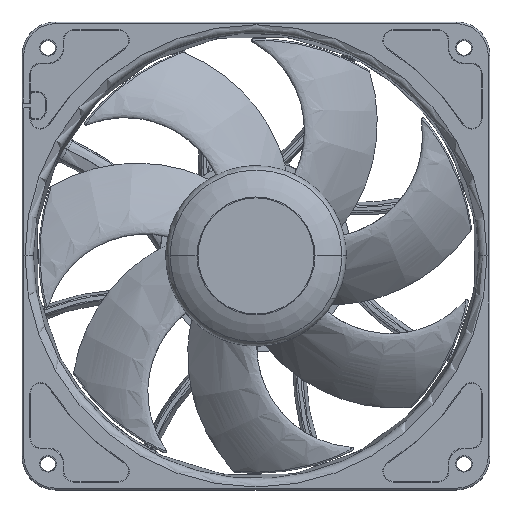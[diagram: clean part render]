
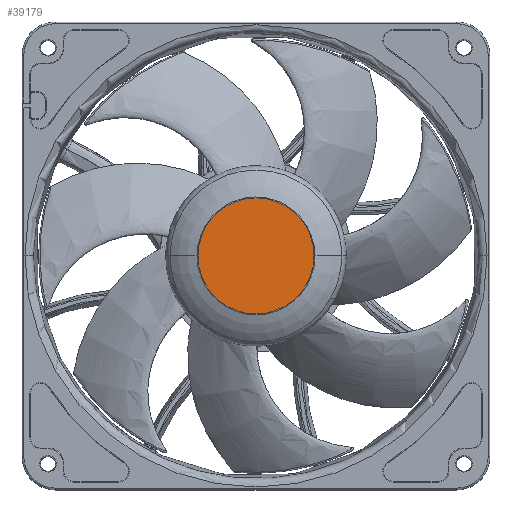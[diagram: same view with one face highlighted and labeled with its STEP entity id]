
A CAD part, top view. The second image highlights one B-rep face of the part: STEP entity #39179.
In plain terms, the highlighted planar face has unit normal (0, 0, 1).
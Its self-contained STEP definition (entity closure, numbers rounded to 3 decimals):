
#2336 = CARTESIAN_POINT ( 'NONE',  ( 0., 0., 35.7 ) ) ;
#6121 = CIRCLE ( 'NONE', #85797, 17.364 ) ;
#12324 = CARTESIAN_POINT ( 'NONE',  ( 17.364, 0., 35.7 ) ) ;
#15253 = DIRECTION ( 'NONE',  ( -1., 0., 0. ) ) ;
#20757 = AXIS2_PLACEMENT_3D ( 'NONE', #46302, #30536, #15253 ) ;
#20842 = EDGE_CURVE ( 'NONE', #26607, #78940, #64665, .T. ) ;
#21724 = EDGE_CURVE ( 'NONE', #78940, #26607, #6121, .T. ) ;
#21808 = ORIENTED_EDGE ( 'NONE', *, *, #21724, .T. ) ;
#23019 = EDGE_LOOP ( 'NONE', ( #21808, #100098 ) ) ;
#26607 = VERTEX_POINT ( 'NONE', #12324 ) ;
#30536 = DIRECTION ( 'NONE',  ( 0., 0., 1. ) ) ;
#33061 = CARTESIAN_POINT ( 'NONE',  ( 0., 0., 35.7 ) ) ;
#34735 = CARTESIAN_POINT ( 'NONE',  ( -17.364, 0., 35.7 ) ) ;
#36131 = AXIS2_PLACEMENT_3D ( 'NONE', #33061, #54999, #86022 ) ;
#39179 = ADVANCED_FACE ( 'NONE', ( #65134 ), #96179, .T. ) ;
#46302 = CARTESIAN_POINT ( 'NONE',  ( 0., 0., 35.7 ) ) ;
#54999 = DIRECTION ( 'NONE',  ( 0., 0., 1. ) ) ;
#55847 = DIRECTION ( 'NONE',  ( 0., 0., 1. ) ) ;
#62988 = DIRECTION ( 'NONE',  ( -1., 0., 0. ) ) ;
#64665 = CIRCLE ( 'NONE', #20757, 17.364 ) ;
#65134 = FACE_OUTER_BOUND ( 'NONE', #23019, .T. ) ;
#78940 = VERTEX_POINT ( 'NONE', #34735 ) ;
#85797 = AXIS2_PLACEMENT_3D ( 'NONE', #2336, #55847, #62988 ) ;
#86022 = DIRECTION ( 'NONE',  ( -1., 0., 0. ) ) ;
#96179 = PLANE ( 'NONE',  #36131 ) ;
#100098 = ORIENTED_EDGE ( 'NONE', *, *, #20842, .T. ) ;
